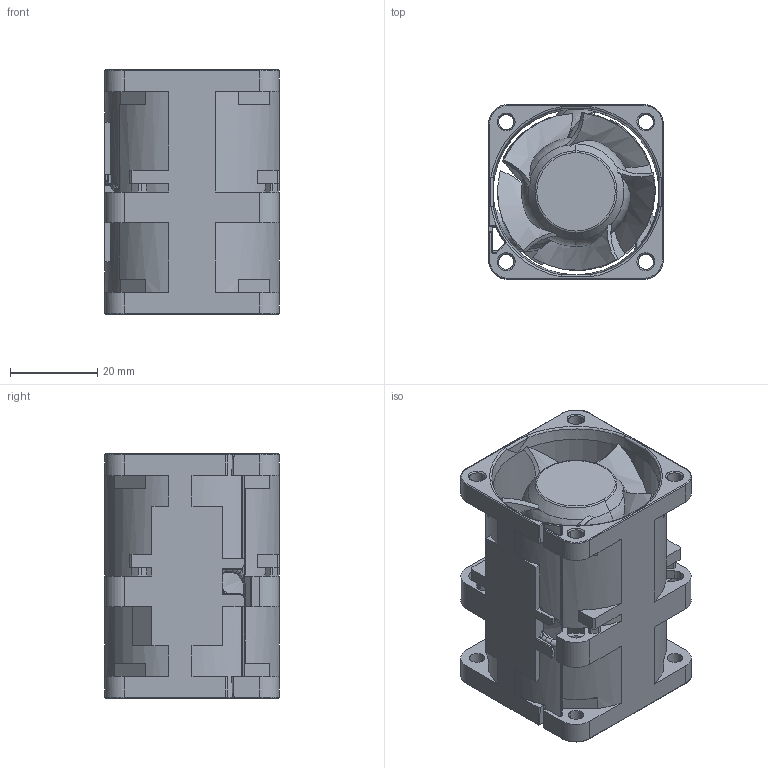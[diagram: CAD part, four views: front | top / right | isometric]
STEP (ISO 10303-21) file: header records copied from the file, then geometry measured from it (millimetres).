
FILE_DESCRIPTION (( 'STEP AP203' ), '1' );
FILE_NAME ('4056CRB RIBRESS.STEP', '2017-01-26T07:46:29', ( '' ), ( '' ), 'SwSTEP 2.0', 'SolidWorks 2016', '' );
FILE_SCHEMA (( 'CONFIG_CONTROL_DESIGN' ));
Length unit declared in the file: millimetre
Products named in the file (1): 4056CRB RIBRESS
Bounding box: 40 x 40 x 56 mm (x, y, z)
Volume: 41564 mm3; surface area: 25103.1 mm2
Topology: 1 solids, 1 shells, 442 faces, 1210 edges, 768 vertices
Faces by surface type: bspline 154, plane 131, cylinder 127, torus 20, cone 10
Entity records: 42093 total; most frequent: CARTESIAN_POINT 32247, ORIENTED_EDGE 2412, DIRECTION 1415, EDGE_CURVE 1206, VERTEX_POINT 768, B_SPLINE_CURVE_WITH_KNOTS 565, AXIS2_PLACEMENT_3D 493, EDGE_LOOP 482
